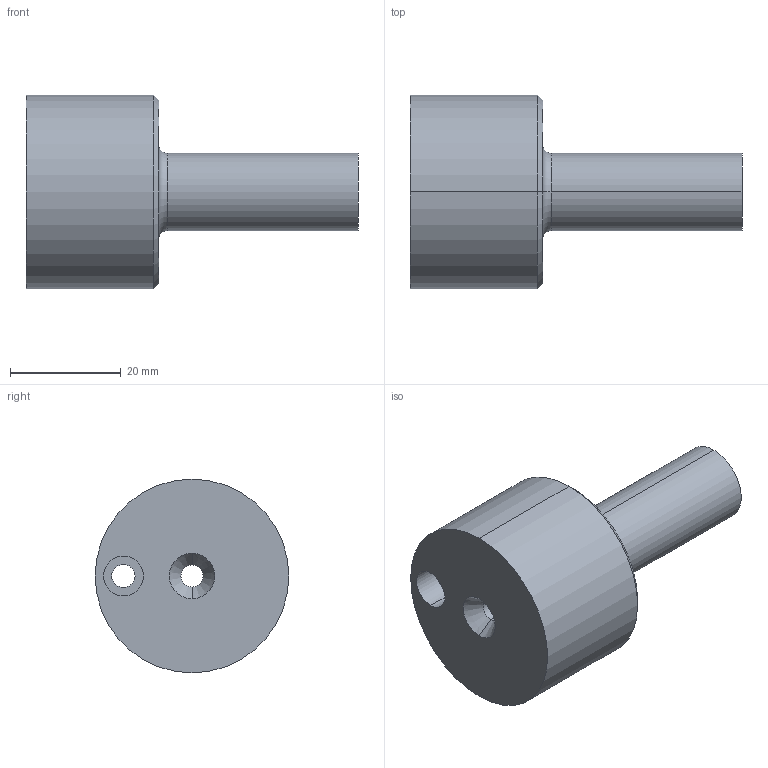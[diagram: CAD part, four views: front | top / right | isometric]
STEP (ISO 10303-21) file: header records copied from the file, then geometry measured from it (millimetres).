
FILE_DESCRIPTION (( 'STEP AP214' ), '1' );
FILE_NAME ('B1 24x60.STEP', '2019-05-22T10:45:34', ( 'August' ), ( '' ), 'SwSTEP 2.0', 'SolidWorks 2018', '' );
FILE_SCHEMA (( 'AUTOMOTIVE_DESIGN' ));
Length unit declared in the file: millimetre
Products named in the file (1): B1 24x60
Bounding box: 60 x 35 x 35 mm (x, y, z)
Volume: 26377.2 mm3; surface area: 7430.3 mm2
Topology: 1 solids, 1 shells, 20 faces, 42 edges, 26 vertices
Faces by surface type: cylinder 8, cone 6, plane 4, torus 2
Entity records: 588 total; most frequent: DIRECTION 112, CARTESIAN_POINT 89, ORIENTED_EDGE 84, AXIS2_PLACEMENT_3D 49, EDGE_CURVE 42, CIRCLE 28, VERTEX_POINT 26, EDGE_LOOP 26
